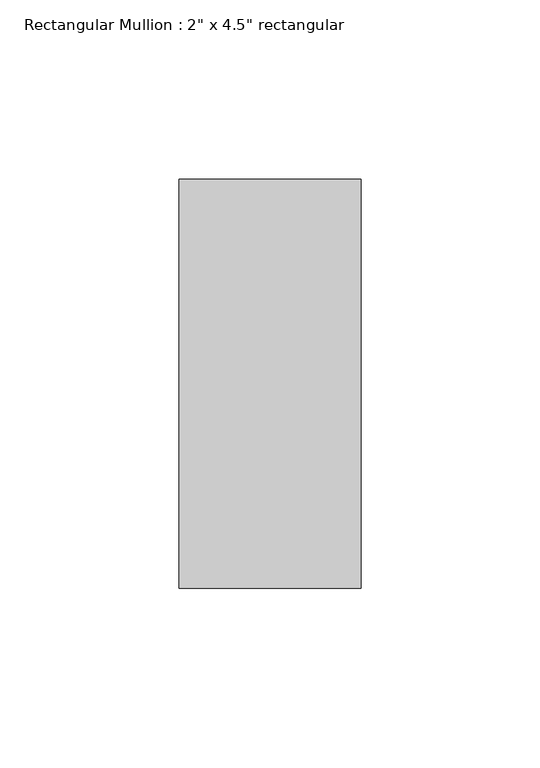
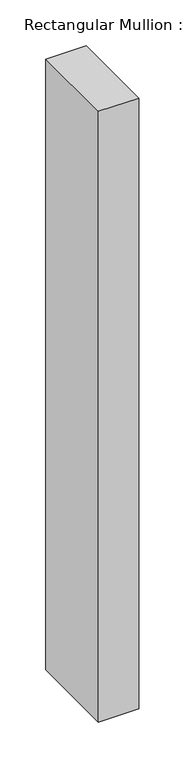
"""IFC4 building model written with IfcOpenShell, lengths in millimetres: member geometry."""

from ifc_helpers import new_model, si_unit, frame, origin, place, context, project, spatial, polyline, outline, extrude, source, transform, mapped, element, save


def member_76371e1d(model_context):
    return source(origin(), model_context, "Body", "SweptSolid", [
        extrude(outline(polyline([(0.0, 57.15), (0.0, -57.15), (-50.8, -57.15), (-50.8, 57.15), (0.0, 57.15)])), frame((0.0, 0.0, -811.299085), z_axis=(0.0, 0.0, 1.0), x_axis=(1.0, 0.0, 0.0)), (0.0, 0.0, 1.0), 811.299085),
    ])


if __name__ == "__main__":
    model = new_model("IFC4")
    model_context = context("Model", 3, world=origin())
    ifc_project = project(units=[si_unit("LENGTHUNIT", "METRE", prefix="MILLI")], contexts=[model_context])
    site = spatial("IfcSite", under=ifc_project)
    building = spatial("IfcBuilding", under=site)
    placement = place(None, origin())
    member_shape = member_76371e1d(model_context)
    element("IfcMember", 1, ObjectType="Rectangular Mullion : 2\" x 4.5\" rectangular", at=placement, inside=building, context=model_context, shape_type="MappedRepresentation", body=[
        mapped(member_shape, transform((0.0, 0.0, 0.0), x_axis=(1.0, 0.0, 0.0), y_axis=(0.0, 1.0, 0.0), z_axis=(0.0, 0.0, 1.0))),
    ])
    save(model, "model.ifc")
